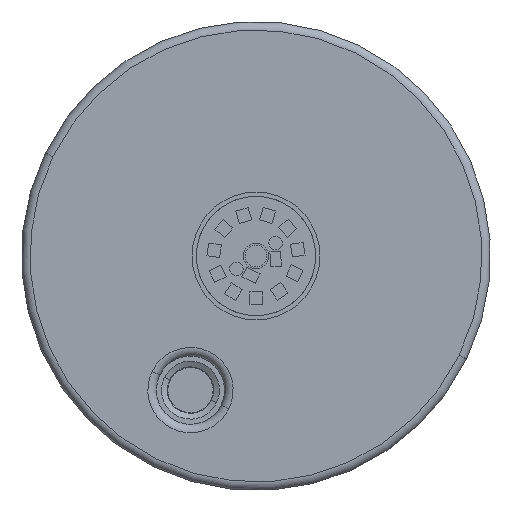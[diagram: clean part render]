
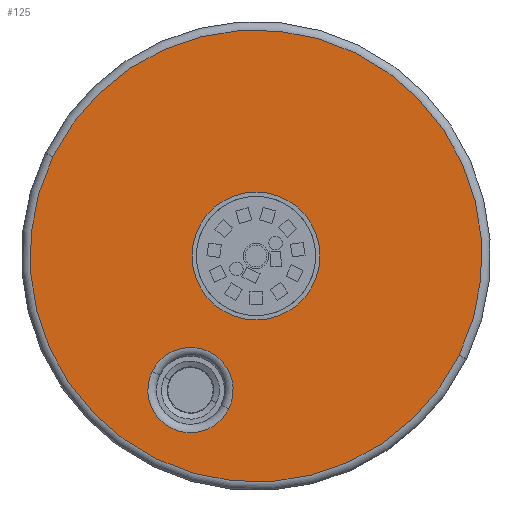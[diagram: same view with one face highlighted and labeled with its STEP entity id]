
A CAD part, front view. The second image highlights one B-rep face of the part: STEP entity #125.
In plain terms, the highlighted planar face has unit normal (0, -1, 0).
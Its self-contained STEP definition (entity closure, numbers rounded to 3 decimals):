
#125 = ADVANCED_FACE ( 'NONE', ( #2678, #4593, #3585 ), #792, .F. ) ;
#131 = CARTESIAN_POINT ( 'NONE',  ( -47.621, 814., 23.265 ) ) ;
#267 = CIRCLE ( 'NONE', #3397, 10. ) ;
#318 = VERTEX_POINT ( 'NONE', #2938 ) ;
#379 = CARTESIAN_POINT ( 'NONE',  ( 0., 814., 0. ) ) ;
#404 = CARTESIAN_POINT ( 'NONE',  ( 0., 814., 0. ) ) ;
#472 = DIRECTION ( 'NONE',  ( 0., 1., 0. ) ) ;
#516 = CARTESIAN_POINT ( 'NONE',  ( -15.363, 814., -31.448 ) ) ;
#534 = DIRECTION ( 'NONE',  ( 0., 1., 0. ) ) ;
#743 = VERTEX_POINT ( 'NONE', #131 ) ;
#769 = DIRECTION ( 'NONE',  ( -0.899, 0., 0.439 ) ) ;
#790 = DIRECTION ( 'NONE',  ( -0.899, 0., 0.439 ) ) ;
#792 = PLANE ( 'NONE',  #3384 ) ;
#793 = EDGE_CURVE ( 'NONE', #3046, #4692, #1730, .T. ) ;
#902 = DIRECTION ( 'NONE',  ( -0.899, 0., 0.439 ) ) ;
#1111 = ORIENTED_EDGE ( 'NONE', *, *, #2861, .T. ) ;
#1285 = EDGE_CURVE ( 'NONE', #318, #743, #4145, .T. ) ;
#1292 = EDGE_LOOP ( 'NONE', ( #2706, #1543 ) ) ;
#1543 = ORIENTED_EDGE ( 'NONE', *, *, #1285, .F. ) ;
#1730 = CIRCLE ( 'NONE', #2386, 10. ) ;
#1834 = EDGE_CURVE ( 'NONE', #4692, #3046, #3295, .T. ) ;
#1855 = ORIENTED_EDGE ( 'NONE', *, *, #1834, .T. ) ;
#1867 = EDGE_CURVE ( 'NONE', #743, #318, #3632, .T. ) ;
#1880 = CARTESIAN_POINT ( 'NONE',  ( 0., 814., 0. ) ) ;
#1917 = AXIS2_PLACEMENT_3D ( 'NONE', #379, #3076, #769 ) ;
#1946 = AXIS2_PLACEMENT_3D ( 'NONE', #404, #3096, #790 ) ;
#2073 = VERTEX_POINT ( 'NONE', #4911 ) ;
#2154 = CARTESIAN_POINT ( 'NONE',  ( -8.985, 814., 4.39 ) ) ;
#2197 = VERTEX_POINT ( 'NONE', #4508 ) ;
#2264 = DIRECTION ( 'NONE',  ( -0.899, 0., 0.439 ) ) ;
#2386 = AXIS2_PLACEMENT_3D ( 'NONE', #2839, #534, #3223 ) ;
#2464 = CARTESIAN_POINT ( 'NONE',  ( 8.985, 814., -4.39 ) ) ;
#2546 = ORIENTED_EDGE ( 'NONE', *, *, #4596, .T. ) ;
#2678 = FACE_BOUND ( 'NONE', #4777, .T. ) ;
#2706 = ORIENTED_EDGE ( 'NONE', *, *, #1867, .F. ) ;
#2778 = CARTESIAN_POINT ( 'NONE',  ( -15.363, 814., -31.448 ) ) ;
#2839 = CARTESIAN_POINT ( 'NONE',  ( 0., 814., 0. ) ) ;
#2861 = EDGE_CURVE ( 'NONE', #2197, #2073, #267, .T. ) ;
#2938 = CARTESIAN_POINT ( 'NONE',  ( 47.621, 814., -23.265 ) ) ;
#3046 = VERTEX_POINT ( 'NONE', #2154 ) ;
#3076 = DIRECTION ( 'NONE',  ( 0., 1., 0. ) ) ;
#3096 = DIRECTION ( 'NONE',  ( 0., 1., 0. ) ) ;
#3164 = DIRECTION ( 'NONE',  ( -0.899, 0., 0.439 ) ) ;
#3202 = DIRECTION ( 'NONE',  ( 0., 1., 0. ) ) ;
#3223 = DIRECTION ( 'NONE',  ( -0.899, 0., 0.439 ) ) ;
#3295 = CIRCLE ( 'NONE', #4573, 10. ) ;
#3384 = AXIS2_PLACEMENT_3D ( 'NONE', #4633, #3868, #3471 ) ;
#3397 = AXIS2_PLACEMENT_3D ( 'NONE', #2778, #472, #3164 ) ;
#3409 = CIRCLE ( 'NONE', #4334, 10. ) ;
#3471 = DIRECTION ( 'NONE',  ( -0.899, 0., 0.439 ) ) ;
#3585 = FACE_OUTER_BOUND ( 'NONE', #1292, .T. ) ;
#3632 = CIRCLE ( 'NONE', #1917, 53. ) ;
#3868 = DIRECTION ( 'NONE',  ( 0., 1., 0. ) ) ;
#4145 = CIRCLE ( 'NONE', #1946, 53. ) ;
#4334 = AXIS2_PLACEMENT_3D ( 'NONE', #516, #3202, #902 ) ;
#4473 = ORIENTED_EDGE ( 'NONE', *, *, #793, .T. ) ;
#4508 = CARTESIAN_POINT ( 'NONE',  ( -24.349, 814., -27.058 ) ) ;
#4558 = DIRECTION ( 'NONE',  ( 0., 1., 0. ) ) ;
#4573 = AXIS2_PLACEMENT_3D ( 'NONE', #1880, #4558, #2264 ) ;
#4593 = FACE_BOUND ( 'NONE', #4901, .T. ) ;
#4596 = EDGE_CURVE ( 'NONE', #2073, #2197, #3409, .T. ) ;
#4633 = CARTESIAN_POINT ( 'NONE',  ( 0., 814., 0. ) ) ;
#4692 = VERTEX_POINT ( 'NONE', #2464 ) ;
#4777 = EDGE_LOOP ( 'NONE', ( #1111, #2546 ) ) ;
#4901 = EDGE_LOOP ( 'NONE', ( #4473, #1855 ) ) ;
#4911 = CARTESIAN_POINT ( 'NONE',  ( -6.378, 814., -35.837 ) ) ;
